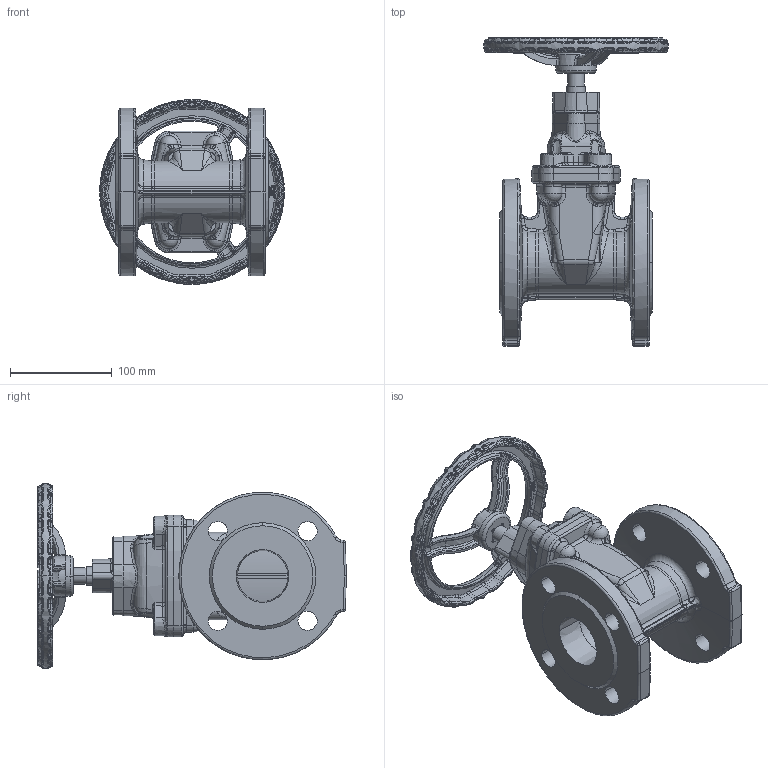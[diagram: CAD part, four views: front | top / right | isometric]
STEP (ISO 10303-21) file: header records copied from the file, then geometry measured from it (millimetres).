
FILE_DESCRIPTION (( 'STEP AP203' ), '1' );
FILE_NAME ('933XZ45XB50-46-0-T.STEP', '2024-05-06T00:14:01', ( 'Windows User' ), ( 'P R C' ), 'SwSTEP 2.0', 'SolidWorks 2018', '' );
FILE_SCHEMA (( 'CONFIG_CONTROL_DESIGN' ));
Products named in the file (6): 933XZ45XB50-46-0-T; 933Z1-1B50-04-0-P; 922YG-3B65-01-1-T; 933GB50-04-1-S; 922XFG18X210-01-5-T; 98CSL180-01-0-T
Assembly tree (5 placements, depth 2):
  933XZ45XB50-46-0-T
    933Z1-1B50-04-0-P
    933GB50-04-1-S
    922YG-3B65-01-1-T
    922XFG18X210-01-5-T
    98CSL180-01-0-T
Bounding box: 182 x 304.13 x 181.94 mm (x, y, z)
Volume: 1629851.7 mm3; surface area: 287904.7 mm2
Topology: 5 solids, 5 shells, 3178 faces, 7366 edges, 4236 vertices
Faces by surface type: bspline 1531, torus 778, plane 352, cylinder 256, cone 171, sphere 90
Entity records: 181841 total; most frequent: CARTESIAN_POINT 120692, ORIENTED_EDGE 14716, DIRECTION 9425, EDGE_CURVE 7358, AXIS2_PLACEMENT_3D 4233, VERTEX_POINT 4232, EDGE_LOOP 3260, B_SPLINE_CURVE_WITH_KNOTS 3237
